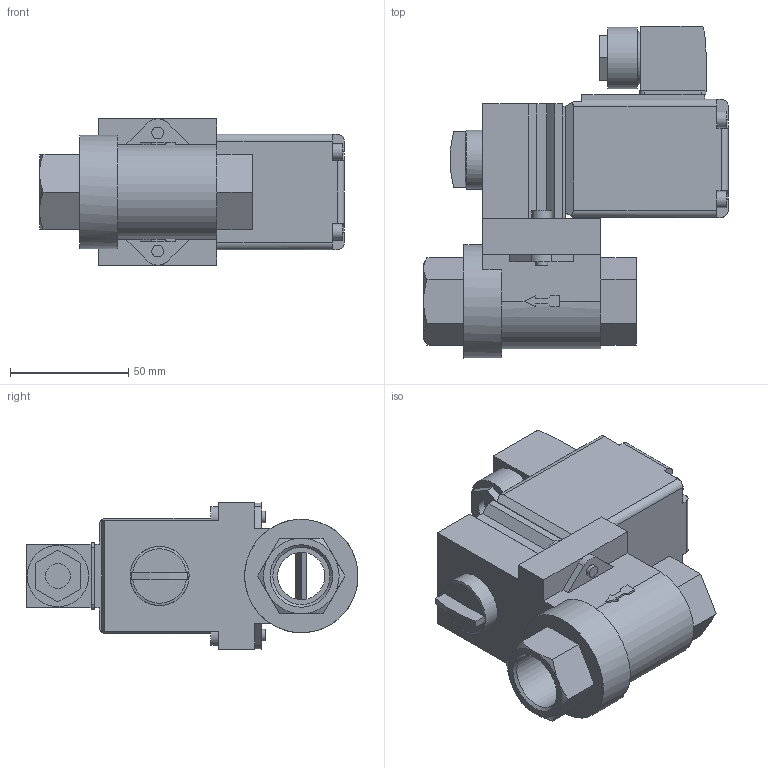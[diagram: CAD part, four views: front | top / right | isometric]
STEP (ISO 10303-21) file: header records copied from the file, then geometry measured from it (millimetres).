
FILE_DESCRIPTION( ( 'STEP AP214' ), '1' );
FILE_NAME( 'p:/temp/worker_18/temp/app_56_02018110106251315939282192d056f_000000_00_00_000000/format_0/0131-050461-Direct-acting_2_2_or_3_2_way_toggle_valves.stp', '2018-11-01T05:25:13', ( '' ), ( '' ), ' ', 'PARTsolutions', ' ' );
FILE_SCHEMA( ( 'AUTOMOTIVE_DESIGN { 1 0 10303 214 1 1 1 1 }' ) );
Length unit declared in the file: millimetre
Products named in the file (1): HI_0131-050461-Direct-acting 2/2 or 3/2 way toggle valves
Bounding box: 129 x 140.47 x 62 mm (x, y, z)
Volume: 411071.4 mm3; surface area: 56010.3 mm2
Topology: 1 solids, 1 shells, 204 faces, 535 edges, 350 vertices
Faces by surface type: plane 157, cylinder 38, cone 8, sphere 1
Full cylindrical faces by diameter (mm): 5 x2, 7 x4, 8.5 x2, 10.5 x1, 20 x1, 22.3 x1, 24.117 x2, 25 x1, 26 x1, 48 x1
Entity records: 7777 total; most frequent: CARTESIAN_POINT 1124, DIRECTION 1039, ORIENTED_EDGE 1012, EDGE_CURVE 506, LINE 359, VECTOR 359, VERTEX_POINT 341, AXIS2_PLACEMENT_3D 340
